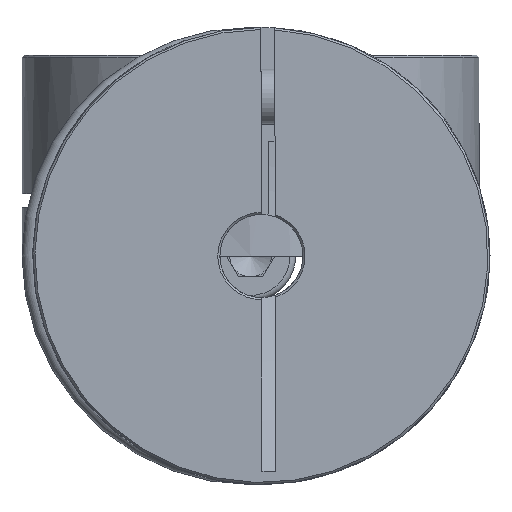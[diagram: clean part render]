
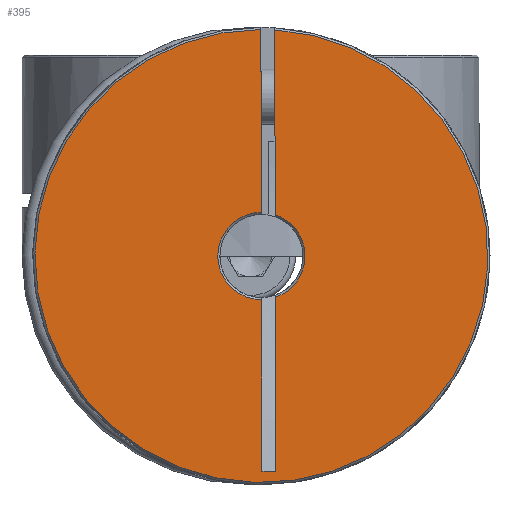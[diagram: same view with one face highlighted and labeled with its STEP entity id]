
A CAD part, left-side view. The second image highlights one B-rep face of the part: STEP entity #395.
In plain terms, the highlighted planar face has unit normal (-1, 0, 0) as drawn and (0, 0, 1) by its records, which use the part's own axes.
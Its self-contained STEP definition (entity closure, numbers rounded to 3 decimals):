
#395 = ADVANCED_FACE( 'NONE', ( #764 ), #765, .T. );
#764 = FACE_OUTER_BOUND( '', #1038, .T. );
#765 = PLANE( '', #1039 );
#1038 = EDGE_LOOP( '', ( #1527, #1528, #1529, #1530, #1531, #1532, #1533, #1534 ) );
#1039 = AXIS2_PLACEMENT_3D( '', #1535, #1536, #1537 );
#1527 = ORIENTED_EDGE( '', *, *, #1752, .F. );
#1528 = ORIENTED_EDGE( '', *, *, #1774, .T. );
#1529 = ORIENTED_EDGE( '', *, *, #1754, .F. );
#1530 = ORIENTED_EDGE( '', *, *, #1772, .T. );
#1531 = ORIENTED_EDGE( '', *, *, #1767, .T. );
#1532 = ORIENTED_EDGE( '', *, *, #1727, .T. );
#1533 = ORIENTED_EDGE( '', *, *, #1770, .T. );
#1534 = ORIENTED_EDGE( '', *, *, #1773, .F. );
#1535 = CARTESIAN_POINT( '', ( 0., 0., 29. ) );
#1536 = DIRECTION( '', ( 0., 0., 1. ) );
#1537 = DIRECTION( '', ( 1., 0., 0. ) );
#1727 = EDGE_CURVE( 'NONE', #1950, #1947, #1951, .F. );
#1752 = EDGE_CURVE( 'NONE', #1996, #1998, #1999, .F. );
#1754 = EDGE_CURVE( 'NONE', #2001, #2002, #2003, .F. );
#1767 = EDGE_CURVE( 'NONE', #2022, #1950, #2023, .T. );
#1770 = EDGE_CURVE( 'NONE', #1947, #2026, #2027, .T. );
#1772 = EDGE_CURVE( 'NONE', #2001, #2022, #2029, .T. );
#1773 = EDGE_CURVE( 'NONE', #1998, #2026, #2030, .F. );
#1774 = EDGE_CURVE( 'NONE', #1996, #2002, #2031, .F. );
#1947 = VERTEX_POINT( 'NONE', #2141 );
#1950 = VERTEX_POINT( 'NONE', #2147 );
#1951 = CIRCLE( '', #2148, 6.3 );
#1996 = VERTEX_POINT( 'NONE', #2364 );
#1998 = VERTEX_POINT( 'NONE', #2367 );
#1999 = LINE( '', #2368, #2369 );
#2001 = VERTEX_POINT( 'NONE', #2371 );
#2002 = VERTEX_POINT( 'NONE', #2372 );
#2003 = LINE( '', #2373, #2374 );
#2022 = VERTEX_POINT( 'NONE', #2402 );
#2023 = LINE( '', #2403, #2404 );
#2026 = VERTEX_POINT( 'NONE', #2411 );
#2027 = LINE( '', #2412, #2413 );
#2029 = CIRCLE( '', #2415, 32.7 );
#2030 = LINE( '', #2416, #2417 );
#2031 = CIRCLE( '', #2418, 6.3 );
#2141 = CARTESIAN_POINT( '', ( -5.974, -2., 29. ) );
#2147 = CARTESIAN_POINT( '', ( 5.974, -2., 29. ) );
#2148 = AXIS2_PLACEMENT_3D( '', #2583, #2584, #2585 );
#2364 = CARTESIAN_POINT( '', ( -6.3, 0., 29. ) );
#2367 = CARTESIAN_POINT( '', ( -31.103, 0., 29. ) );
#2368 = CARTESIAN_POINT( '', ( 16.5, 0., 29. ) );
#2369 = VECTOR( '', #2630, 1000. );
#2371 = CARTESIAN_POINT( '', ( 32.7, 0., 29. ) );
#2372 = CARTESIAN_POINT( '', ( 6.3, 0., 29. ) );
#2373 = CARTESIAN_POINT( '', ( 16.5, 0., 29. ) );
#2374 = VECTOR( '', #2634, 1000. );
#2402 = CARTESIAN_POINT( '', ( 32.639, -2., 29. ) );
#2403 = CARTESIAN_POINT( '', ( 0., -2., 29. ) );
#2404 = VECTOR( '', #2656, 1000. );
#2411 = CARTESIAN_POINT( '', ( -31.103, -2., 29. ) );
#2412 = CARTESIAN_POINT( '', ( 0., -2., 29. ) );
#2413 = VECTOR( '', #2658, 1000. );
#2415 = AXIS2_PLACEMENT_3D( '', #2662, #2663, #2664 );
#2416 = CARTESIAN_POINT( '', ( -31.103, -2., 29. ) );
#2417 = VECTOR( '', #2665, 1000. );
#2418 = AXIS2_PLACEMENT_3D( '', #2666, #2667, #2668 );
#2583 = CARTESIAN_POINT( '', ( 0., 0., 29. ) );
#2584 = DIRECTION( '', ( 0., 0., 1. ) );
#2585 = DIRECTION( '', ( 1., 0., 0. ) );
#2630 = DIRECTION( '', ( 1., 0., 0. ) );
#2634 = DIRECTION( '', ( 1., 0., 0. ) );
#2656 = DIRECTION( '', ( -1., 0., 0. ) );
#2658 = DIRECTION( '', ( -1., 0., 0. ) );
#2662 = CARTESIAN_POINT( '', ( 0., 0., 29. ) );
#2663 = DIRECTION( '', ( 0., 0., 1. ) );
#2664 = DIRECTION( '', ( 1., 0., 0. ) );
#2665 = DIRECTION( '', ( 0., 1., 0. ) );
#2666 = CARTESIAN_POINT( '', ( 0., 0., 29. ) );
#2667 = DIRECTION( '', ( 0., 0., 1. ) );
#2668 = DIRECTION( '', ( 1., 0., 0. ) );
